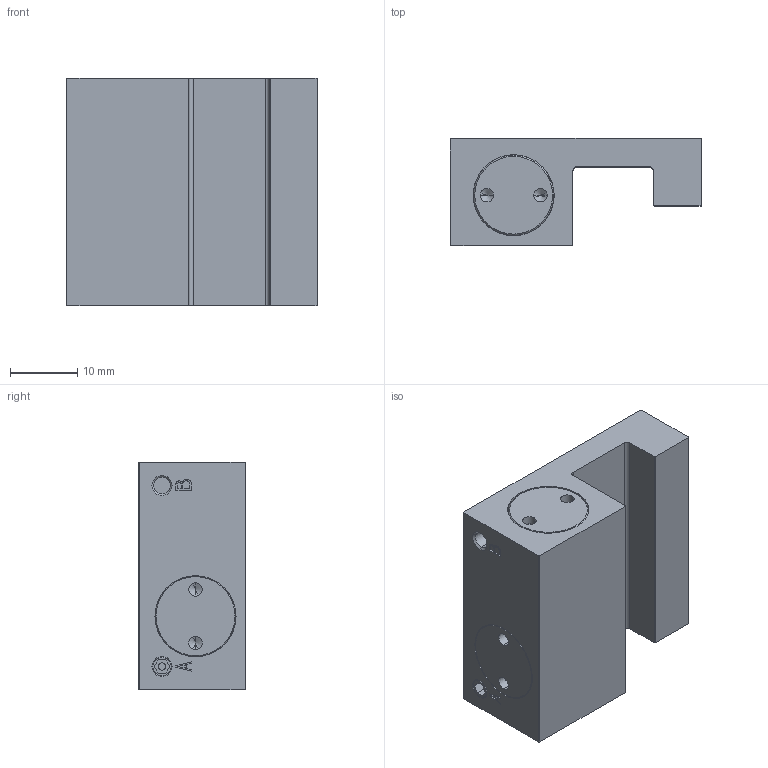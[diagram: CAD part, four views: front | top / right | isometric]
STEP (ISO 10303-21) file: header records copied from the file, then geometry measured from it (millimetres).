
FILE_DESCRIPTION( ( '' ), '1' );
FILE_NAME( 'E:/04 嬴檜蠱滌/0404 ZIMMER/040414 ZIMMER CAD download/MCP/MCP1201A---.stp', '2020-04-16T10:02:12', ( '' ), ( '' ), ' ', ' ', ' ' );
FILE_SCHEMA( ( 'automotive_design' ) );
Length unit declared in the file: millimetre
Products named in the file (1): 1
Bounding box: 37.5 x 16.05 x 34 mm (x, y, z)
Volume: 14082.4 mm3; surface area: 5258.7 mm2
Topology: 1 solids, 1 shells, 114 faces, 268 edges, 168 vertices
Faces by surface type: plane 60, cylinder 32, cone 22
Entity records: 6272 total; most frequent: DIRECTION 570, STYLED_ITEM 543, PRESENTATION_STYLE_ASSIGNMENT 543, CARTESIAN_POINT 543, COLOUR_RGB 543, ORIENTED_EDGE 520, EDGE_CURVE 260, CURVE_STYLE 260
